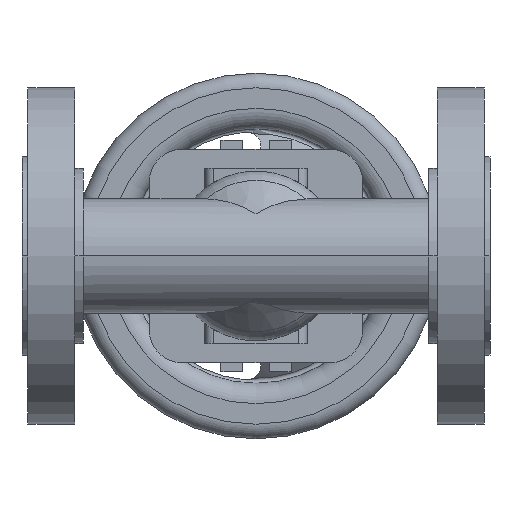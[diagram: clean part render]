
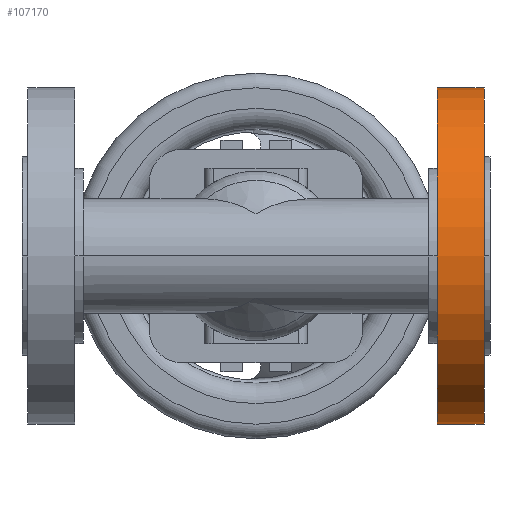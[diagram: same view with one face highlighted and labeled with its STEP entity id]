
A CAD part, front view. The second image highlights one B-rep face of the part: STEP entity #107170.
In plain terms, the highlighted cylindrical face has radius 57.5 mm (diameter 115 mm), a partial arc.
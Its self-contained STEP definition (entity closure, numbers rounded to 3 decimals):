
#10050=CARTESIAN_POINT('',(158.,0.,0.));
#10060=DIRECTION('',(1.,0.,0.));
#10070=DIRECTION('',(0.,0.,-1.));
#10080=AXIS2_PLACEMENT_3D('',#10050,#10060,#10070);
#10090=CYLINDRICAL_SURFACE('',#10080,57.5);
#10100=CARTESIAN_POINT('',(158.,0.,57.5));
#10110=DIRECTION('',(1.,0.,0.));
#10120=VECTOR('',#10110,1.);
#10130=LINE('',#10100,#10120);
#10140=CARTESIAN_POINT('',(142.,0.,57.5));
#10150=VERTEX_POINT('',#10140);
#10160=CARTESIAN_POINT('',(158.,0.,57.5));
#10170=VERTEX_POINT('',#10160);
#10180=EDGE_CURVE('',#10150,#10170,#10130,.T.);
#10200=CARTESIAN_POINT('',(142.,0.,0.));
#10210=DIRECTION('',(1.,0.,0.));
#10220=DIRECTION('',(0.,0.,-1.));
#10230=AXIS2_PLACEMENT_3D('',#10200,#10210,#10220);
#10240=CIRCLE('',#10230,57.5);
#10250=CARTESIAN_POINT('',(142.,0.,-57.5));
#10260=VERTEX_POINT('',#10250);
#10290=CARTESIAN_POINT('',(158.,0.,-57.5));
#10300=DIRECTION('',(1.,0.,0.));
#10310=VECTOR('',#10300,1.);
#10320=LINE('',#10290,#10310);
#10330=CARTESIAN_POINT('',(158.,0.,-57.5));
#10340=VERTEX_POINT('',#10330);
#10350=EDGE_CURVE('',#10260,#10340,#10320,.T.);
#10370=CARTESIAN_POINT('',(158.,0.,0.));
#10380=DIRECTION('',(1.,0.,0.));
#10390=DIRECTION('',(0.,0.,-1.));
#10400=AXIS2_PLACEMENT_3D('',#10370,#10380,#10390);
#10410=CIRCLE('',#10400,57.5);
#14650=EDGE_CURVE('',#10170,#10340,#10410,.T.);
#15220=EDGE_CURVE('',#10150,#10260,#10240,.T.);
#107110=ORIENTED_EDGE('',*,*,#10180,.F.);
#107120=ORIENTED_EDGE('',*,*,#14650,.F.);
#107130=ORIENTED_EDGE('',*,*,#10350,.T.);
#107140=ORIENTED_EDGE('',*,*,#15220,.T.);
#107150=EDGE_LOOP('',(#107140,#107130,#107120,#107110));
#107160=FACE_OUTER_BOUND('',#107150,.T.);
#107170=ADVANCED_FACE('',(#107160),#10090,.T.);
